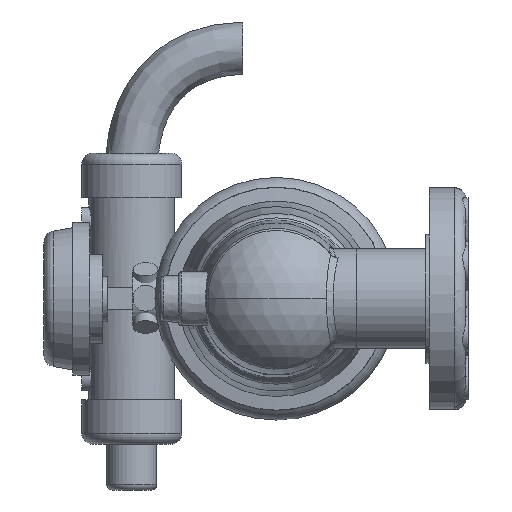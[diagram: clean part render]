
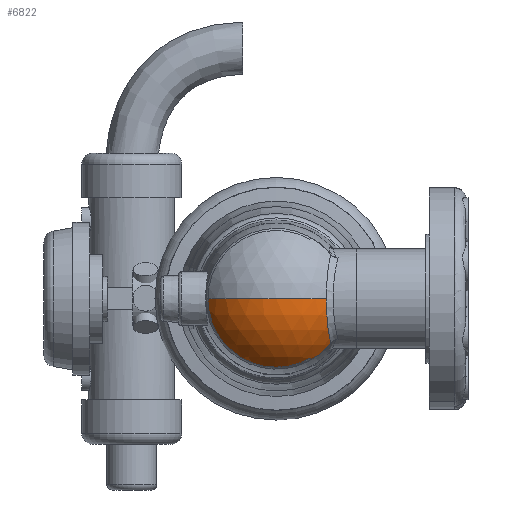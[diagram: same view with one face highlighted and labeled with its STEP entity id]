
A CAD part, front view. The second image highlights one B-rep face of the part: STEP entity #6822.
In plain terms, the highlighted spherical face has radius 72.998 mm.
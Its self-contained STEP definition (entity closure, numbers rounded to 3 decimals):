
#28 = ORIENTED_EDGE ( 'NONE', *, *, #19690, .T. ) ;
#74 = CARTESIAN_POINT ( 'NONE',  ( 45.031, -541.768, -0.988 ) ) ;
#1856 = DIRECTION ( 'NONE',  ( -1., 0., 0. ) ) ;
#2039 = CARTESIAN_POINT ( 'NONE',  ( 46.544, -534.151, -26.129 ) ) ;
#2735 = B_SPLINE_CURVE_WITH_KNOTS ( 'NONE', 3,
 ( #20226, #4261, #24308, #6483, #16161, #20102, #10281, #17998, #19988, #2039, #10033, #10423, #23920, #6113, #16029, #22333, #5980, #21813, #21945, #8447, #3873, #14215, #74, #14091 ),
 .UNSPECIFIED., .F., .F.,
 ( 4, 2, 2, 2, 2, 2, 2, 2, 2, 2, 2, 4 ),
 ( 0., 0.006, 0.012, 0.015, 0.018, 0.024, 0.027, 0.03, 0.036, 0.041, 0.044, 0.047 ),
 .UNSPECIFIED. ) ;
#3504 = ORIENTED_EDGE ( 'NONE', *, *, #14763, .T. ) ;
#3873 = CARTESIAN_POINT ( 'NONE',  ( 45.062, -541.615, -3.968 ) ) ;
#4043 = DIRECTION ( 'NONE',  ( 0., 0., -1. ) ) ;
#4150 = DIRECTION ( 'NONE',  ( 0., 0., 1. ) ) ;
#4261 = CARTESIAN_POINT ( 'NONE',  ( 48.833, -522.15, -38.949 ) ) ;
#4399 = AXIS2_PLACEMENT_3D ( 'NONE', #5559, #9327, #23087 ) ;
#4532 = CARTESIAN_POINT ( 'NONE',  ( 0.013, -557.303, 0. ) ) ;
#4942 = CIRCLE ( 'NONE', #5389, 61.526 ) ;
#5389 = AXIS2_PLACEMENT_3D ( 'NONE', #11991, #5977, #25625 ) ;
#5506 = ORIENTED_EDGE ( 'NONE', *, *, #20905, .F. ) ;
#5559 = CARTESIAN_POINT ( 'NONE',  ( 0.013, -484.305, 0. ) ) ;
#5790 = CARTESIAN_POINT ( 'NONE',  ( 37.554, -520.52, -51.066 ) ) ;
#5977 = DIRECTION ( 'NONE',  ( 0., -1., 0. ) ) ;
#5980 = CARTESIAN_POINT ( 'NONE',  ( 45.417, -539.85, -13.627 ) ) ;
#6026 = CARTESIAN_POINT ( 'NONE',  ( 37.44, -520.934, -50.855 ) ) ;
#6113 = CARTESIAN_POINT ( 'NONE',  ( 45.824, -537.808, -19.195 ) ) ;
#6392 = CARTESIAN_POINT ( 'NONE',  ( 30.054, -523.589, -53.693 ) ) ;
#6483 = CARTESIAN_POINT ( 'NONE',  ( 47.988, -526.649, -35.185 ) ) ;
#6536 = ORIENTED_EDGE ( 'NONE', *, *, #11981, .F. ) ;
#6726 = EDGE_CURVE ( 'NONE', #23298, #9316, #16986, .T. ) ;
#6773 = B_SPLINE_CURVE_WITH_KNOTS ( 'NONE', 3,
 ( #11066, #8842, #17334, #14989 ),
 .UNSPECIFIED., .F., .F.,
 ( 4, 4 ),
 ( 0.001, 0.004 ),
 .UNSPECIFIED. ) ;
#6822 = ADVANCED_FACE ( 'NONE', ( #16319 ), #12533, .T. ) ;
#7270 = EDGE_CURVE ( 'NONE', #24485, #23298, #2735, .T. ) ;
#8093 = DIRECTION ( 'NONE',  ( -1., 0., 0. ) ) ;
#8447 = CARTESIAN_POINT ( 'NONE',  ( 45.08, -541.524, -4.953 ) ) ;
#8842 = CARTESIAN_POINT ( 'NONE',  ( 30.608, -521.968, -54.544 ) ) ;
#8938 = VERTEX_POINT ( 'NONE', #6392 ) ;
#9316 = VERTEX_POINT ( 'NONE', #4532 ) ;
#9327 = DIRECTION ( 'NONE',  ( 0., 0., 1. ) ) ;
#9530 = AXIS2_PLACEMENT_3D ( 'NONE', #9680, #15686, #9552 ) ;
#9552 = DIRECTION ( 'NONE',  ( -1., 0., 0. ) ) ;
#9680 = CARTESIAN_POINT ( 'NONE',  ( 0.013, -484.305, 0. ) ) ;
#9951 = EDGE_LOOP ( 'NONE', ( #14052, #14752, #6536, #28, #10507, #13266, #3504, #5506 ) ) ;
#10033 = CARTESIAN_POINT ( 'NONE',  ( 46.344, -535.172, -24.464 ) ) ;
#10281 = CARTESIAN_POINT ( 'NONE',  ( 47.221, -530.661, -30.858 ) ) ;
#10391 = VERTEX_POINT ( 'NONE', #11336 ) ;
#10423 = CARTESIAN_POINT ( 'NONE',  ( 46.072, -536.553, -21.869 ) ) ;
#10487 = EDGE_CURVE ( 'NONE', #15120, #8938, #6773, .T. ) ;
#10507 = ORIENTED_EDGE ( 'NONE', *, *, #10487, .F. ) ;
#10818 = CARTESIAN_POINT ( 'NONE',  ( 30.885, -521.139, -54.943 ) ) ;
#11066 = CARTESIAN_POINT ( 'NONE',  ( 30.885, -521.139, -54.943 ) ) ;
#11336 = CARTESIAN_POINT ( 'NONE',  ( -61.513, -523.589, 0. ) ) ;
#11527 = CIRCLE ( 'NONE', #14442, 63.023 ) ;
#11980 = CARTESIAN_POINT ( 'NONE',  ( 37.554, -520.52, -51.066 ) ) ;
#11981 = EDGE_CURVE ( 'NONE', #10391, #9316, #25308, .T. ) ;
#11991 = CARTESIAN_POINT ( 'NONE',  ( 0.013, -523.589, 0. ) ) ;
#12533 = SPHERICAL_SURFACE ( 'NONE', #16568, 72.998 ) ;
#13266 = ORIENTED_EDGE ( 'NONE', *, *, #15893, .F. ) ;
#14052 = ORIENTED_EDGE ( 'NONE', *, *, #7270, .T. ) ;
#14091 = CARTESIAN_POINT ( 'NONE',  ( 45.031, -541.768, 0. ) ) ;
#14215 = CARTESIAN_POINT ( 'NONE',  ( 45.037, -541.738, -1.983 ) ) ;
#14442 = AXIS2_PLACEMENT_3D ( 'NONE', #18342, #15986, #1856 ) ;
#14467 = DIRECTION ( 'NONE',  ( 0., 1., 0. ) ) ;
#14477 = CARTESIAN_POINT ( 'NONE',  ( 49.134, -520.52, -40.052 ) ) ;
#14752 = ORIENTED_EDGE ( 'NONE', *, *, #6726, .T. ) ;
#14763 = EDGE_CURVE ( 'NONE', #23149, #15566, #15688, .T. ) ;
#14989 = CARTESIAN_POINT ( 'NONE',  ( 30.054, -523.589, -53.693 ) ) ;
#15120 = VERTEX_POINT ( 'NONE', #10818 ) ;
#15566 = VERTEX_POINT ( 'NONE', #11980 ) ;
#15686 = DIRECTION ( 'NONE',  ( 0., 0., -1. ) ) ;
#15688 = B_SPLINE_CURVE_WITH_KNOTS ( 'NONE', 3,
 ( #25432, #6026, #21476, #5790 ),
 .UNSPECIFIED., .F., .F.,
 ( 4, 4 ),
 ( 0.127, 0.127 ),
 .UNSPECIFIED. ) ;
#15893 = EDGE_CURVE ( 'NONE', #23149, #15120, #11527, .T. ) ;
#15986 = DIRECTION ( 'NONE',  ( 0., 1., 0. ) ) ;
#16029 = CARTESIAN_POINT ( 'NONE',  ( 45.747, -538.193, -18.279 ) ) ;
#16058 = CARTESIAN_POINT ( 'NONE',  ( 0.013, -484.305, 0. ) ) ;
#16161 = CARTESIAN_POINT ( 'NONE',  ( 47.722, -528.045, -33.811 ) ) ;
#16319 = FACE_OUTER_BOUND ( 'NONE', #9951, .T. ) ;
#16568 = AXIS2_PLACEMENT_3D ( 'NONE', #16058, #4043, #8093 ) ;
#16986 = CIRCLE ( 'NONE', #9530, 72.998 ) ;
#17334 = CARTESIAN_POINT ( 'NONE',  ( 30.331, -522.784, -54.127 ) ) ;
#17998 = CARTESIAN_POINT ( 'NONE',  ( 46.985, -531.883, -29.319 ) ) ;
#18342 = CARTESIAN_POINT ( 'NONE',  ( 0.013, -521.139, 0. ) ) ;
#18401 = CIRCLE ( 'NONE', #25131, 63.381 ) ;
#19204 = CARTESIAN_POINT ( 'NONE',  ( 37.383, -521.139, -50.748 ) ) ;
#19690 = EDGE_CURVE ( 'NONE', #10391, #8938, #4942, .T. ) ;
#19988 = CARTESIAN_POINT ( 'NONE',  ( 46.871, -532.469, -28.533 ) ) ;
#20102 = CARTESIAN_POINT ( 'NONE',  ( 47.343, -530.022, -31.613 ) ) ;
#20226 = CARTESIAN_POINT ( 'NONE',  ( 49.134, -520.52, -40.052 ) ) ;
#20229 = CARTESIAN_POINT ( 'NONE',  ( 0.013, -520.52, 0. ) ) ;
#20905 = EDGE_CURVE ( 'NONE', #24485, #15566, #18401, .T. ) ;
#21476 = CARTESIAN_POINT ( 'NONE',  ( 37.497, -520.727, -50.961 ) ) ;
#21813 = CARTESIAN_POINT ( 'NONE',  ( 45.226, -540.801, -9.82 ) ) ;
#21945 = CARTESIAN_POINT ( 'NONE',  ( 45.153, -541.161, -7.89 ) ) ;
#22333 = CARTESIAN_POINT ( 'NONE',  ( 45.535, -539.259, -15.504 ) ) ;
#23087 = DIRECTION ( 'NONE',  ( 1., 0., 0. ) ) ;
#23149 = VERTEX_POINT ( 'NONE', #19204 ) ;
#23298 = VERTEX_POINT ( 'NONE', #23916 ) ;
#23916 = CARTESIAN_POINT ( 'NONE',  ( 45.031, -541.768, 0. ) ) ;
#23920 = CARTESIAN_POINT ( 'NONE',  ( 45.986, -536.989, -20.989 ) ) ;
#24308 = CARTESIAN_POINT ( 'NONE',  ( 48.543, -523.701, -37.754 ) ) ;
#24485 = VERTEX_POINT ( 'NONE', #14477 ) ;
#25131 = AXIS2_PLACEMENT_3D ( 'NONE', #20229, #14467, #4150 ) ;
#25308 = CIRCLE ( 'NONE', #4399, 72.998 ) ;
#25432 = CARTESIAN_POINT ( 'NONE',  ( 37.383, -521.139, -50.748 ) ) ;
#25625 = DIRECTION ( 'NONE',  ( 1., 0., 0. ) ) ;
